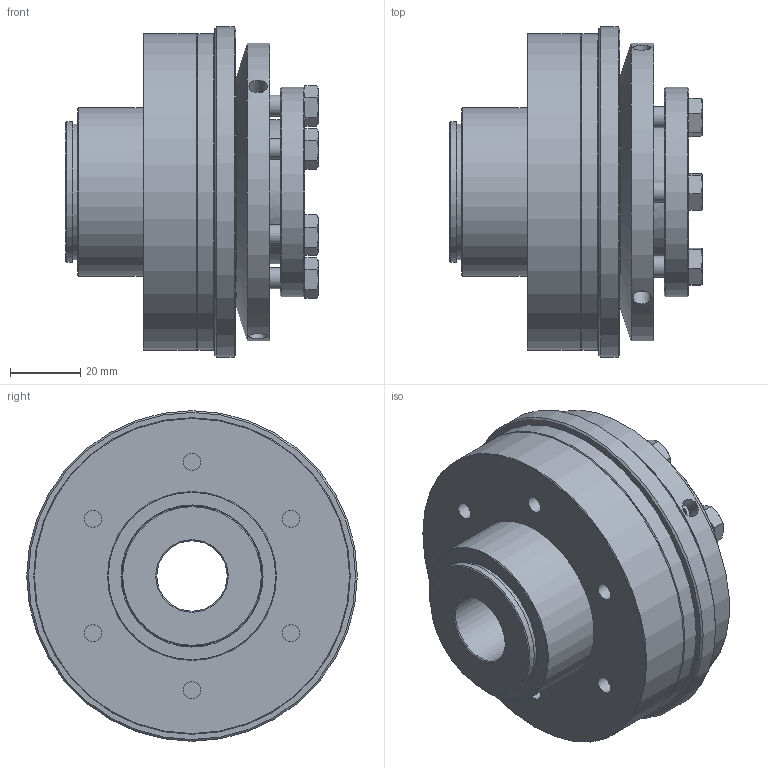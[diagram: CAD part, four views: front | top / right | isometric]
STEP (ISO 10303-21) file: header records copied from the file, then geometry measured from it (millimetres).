
FILE_DESCRIPTION( ( 'Unknown' ), '1' );
FILE_NAME( 'C:/Users/TWalzel/Documents/CAD-Daten/KBK-CI/80/KBK C-I-80.stp', 'Unknown', ( 'Unknown' ), ( 'Unknown' ), 'PSStep 16.0.42', 'Unknown', ' ' );
FILE_SCHEMA( ( 'AUTOMOTIVE_DESIGN { 1 0 10303 214 1 1 1 1 }' ) );
Length unit declared in the file: millimetre
Products named in the file (11): Konusbuchse 80_0; Druckring 80_0; din_en_24017_m6x25_1; Stellring 80_0; Assem1; Flansch-Gleitlager CK-80; Grundkörper C-I-80_1
Assembly tree (15 placements, depth 3):
  Assem1
    Flansch-Gleitlager CK-80
    Grundkörper C-I-80_1
    Konusbuchse 80_0
      Konusbuchse 80_0
    Stellring 80_0
      Stellring 80_0
    Druckring 80_0
      Druckring 80_0
    din_en_24017_m6x25_1  x6
      din_en_24017_m6x25_1
Bounding box: 71.84 x 94 x 94 mm (x, y, z)
Volume: 234807.4 mm3; surface area: 85046.7 mm2
Topology: 11 solids, 11 shells, 272 faces, 573 edges, 364 vertices
Faces by surface type: plane 117, cone 81, cylinder 66, torus 8
Full cylindrical faces by diameter (mm): 3.242 x3, 4.917 x21, 5 x4, 5.2 x3, 6 x6, 6.6 x6, 8.8 x6, 20 x1, 30 x1, 38.5 x1, 40 x3, 41 x1, 48 x1, 59.5 x1, 62 x2, 70 x1, 85 x1, 87 x1, 90 x2, 94 x1
Entity records: 5692 total; most frequent: CARTESIAN_POINT 1030, DIRECTION 726, ORIENTED_EDGE 458, AXIS2_PLACEMENT_3D 341, EDGE_LOOP 310, EDGE_CURVE 229, FACE_OUTER_BOUND 221, VERTEX_POINT 193
